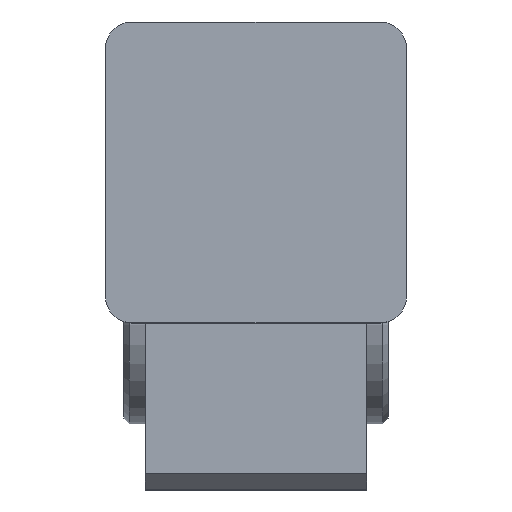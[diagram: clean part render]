
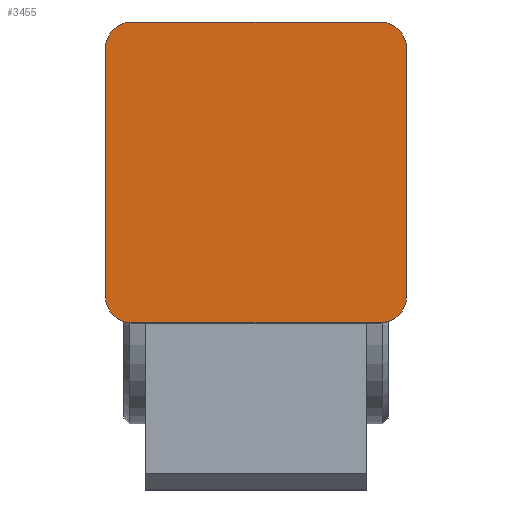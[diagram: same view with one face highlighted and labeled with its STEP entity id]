
A CAD part, top view. The second image highlights one B-rep face of the part: STEP entity #3455.
In plain terms, the highlighted planar face has unit normal (0, 0, 1).
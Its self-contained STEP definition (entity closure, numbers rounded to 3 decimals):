
#33 = VECTOR ( 'NONE', #2260, 1000. ) ;
#148 = CARTESIAN_POINT ( 'NONE',  ( -49.5, 42., 45. ) ) ;
#164 = CARTESIAN_POINT ( 'NONE',  ( 2.5, 42., 45. ) ) ;
#176 = ORIENTED_EDGE ( 'NONE', *, *, #2095, .T. ) ;
#281 = CARTESIAN_POINT ( 'NONE',  ( -44.5, -5., 45. ) ) ;
#408 = ORIENTED_EDGE ( 'NONE', *, *, #3957, .T. ) ;
#440 = CIRCLE ( 'NONE', #3686, 5. ) ;
#444 = VERTEX_POINT ( 'NONE', #2080 ) ;
#503 = EDGE_CURVE ( 'NONE', #2493, #1853, #1934, .T. ) ;
#517 = CARTESIAN_POINT ( 'NONE',  ( -49.5, -5., 45. ) ) ;
#732 = DIRECTION ( 'NONE',  ( 0., -1., 0. ) ) ;
#776 = PLANE ( 'NONE',  #2318 ) ;
#1158 = EDGE_CURVE ( 'NONE', #2332, #2493, #3135, .T. ) ;
#1236 = CARTESIAN_POINT ( 'NONE',  ( 2.5, 42., 45. ) ) ;
#1280 = ORIENTED_EDGE ( 'NONE', *, *, #2846, .T. ) ;
#1336 = CARTESIAN_POINT ( 'NONE',  ( -49.5, -5., 45. ) ) ;
#1350 = CIRCLE ( 'NONE', #5701, 5. ) ;
#1386 = CARTESIAN_POINT ( 'NONE',  ( 7.5, 42., 45. ) ) ;
#1414 = VECTOR ( 'NONE', #732, 1000. ) ;
#1618 = CARTESIAN_POINT ( 'NONE',  ( 2.5, 47., 45. ) ) ;
#1853 = VERTEX_POINT ( 'NONE', #517 ) ;
#1934 = LINE ( 'NONE', #1336, #1414 ) ;
#1959 = DIRECTION ( 'NONE',  ( -1., 0., 0. ) ) ;
#2020 = EDGE_CURVE ( 'NONE', #444, #5419, #3479, .T. ) ;
#2080 = CARTESIAN_POINT ( 'NONE',  ( 7.5, -5., 45. ) ) ;
#2095 = EDGE_CURVE ( 'NONE', #5419, #2758, #1350, .T. ) ;
#2140 = AXIS2_PLACEMENT_3D ( 'NONE', #4053, #3468, #2857 ) ;
#2241 = VECTOR ( 'NONE', #3459, 1000. ) ;
#2260 = DIRECTION ( 'NONE',  ( 0., 1., 0. ) ) ;
#2296 = LINE ( 'NONE', #5186, #4795 ) ;
#2318 = AXIS2_PLACEMENT_3D ( 'NONE', #164, #5457, #4863 ) ;
#2332 = VERTEX_POINT ( 'NONE', #4593 ) ;
#2493 = VERTEX_POINT ( 'NONE', #148 ) ;
#2511 = VERTEX_POINT ( 'NONE', #5301 ) ;
#2539 = EDGE_CURVE ( 'NONE', #2511, #444, #440, .T. ) ;
#2559 = DIRECTION ( 'NONE',  ( 0., 0., 1. ) ) ;
#2596 = ORIENTED_EDGE ( 'NONE', *, *, #1158, .T. ) ;
#2758 = VERTEX_POINT ( 'NONE', #1618 ) ;
#2846 = EDGE_CURVE ( 'NONE', #2758, #2332, #4651, .T. ) ;
#2857 = DIRECTION ( 'NONE',  ( -1., 0., 0. ) ) ;
#2868 = CARTESIAN_POINT ( 'NONE',  ( 7.5, -5., 45. ) ) ;
#2881 = AXIS2_PLACEMENT_3D ( 'NONE', #281, #2559, #1959 ) ;
#2885 = CARTESIAN_POINT ( 'NONE',  ( 2.5, -5., 45. ) ) ;
#2900 = DIRECTION ( 'NONE',  ( -1., 0., 0. ) ) ;
#2974 = ORIENTED_EDGE ( 'NONE', *, *, #2020, .T. ) ;
#3135 = CIRCLE ( 'NONE', #2140, 5. ) ;
#3356 = DIRECTION ( 'NONE',  ( 1., 0., 0. ) ) ;
#3368 = EDGE_CURVE ( 'NONE', #1853, #5734, #3646, .T. ) ;
#3455 = ADVANCED_FACE ( 'NONE', ( #5136 ), #776, .F. ) ;
#3459 = DIRECTION ( 'NONE',  ( -1., 0., 0. ) ) ;
#3468 = DIRECTION ( 'NONE',  ( 0., 0., 1. ) ) ;
#3479 = LINE ( 'NONE', #2868, #33 ) ;
#3510 = DIRECTION ( 'NONE',  ( 0., 0., 1. ) ) ;
#3646 = CIRCLE ( 'NONE', #2881, 5. ) ;
#3686 = AXIS2_PLACEMENT_3D ( 'NONE', #2885, #3948, #3356 ) ;
#3691 = ORIENTED_EDGE ( 'NONE', *, *, #3368, .T. ) ;
#3948 = DIRECTION ( 'NONE',  ( 0., 0., 1. ) ) ;
#3957 = EDGE_CURVE ( 'NONE', #5734, #2511, #2296, .T. ) ;
#4044 = CARTESIAN_POINT ( 'NONE',  ( -44.5, 47., 45. ) ) ;
#4053 = CARTESIAN_POINT ( 'NONE',  ( -44.5, 42., 45. ) ) ;
#4206 = ORIENTED_EDGE ( 'NONE', *, *, #2539, .T. ) ;
#4259 = CARTESIAN_POINT ( 'NONE',  ( -44.5, -10., 45. ) ) ;
#4566 = DIRECTION ( 'NONE',  ( 1., 0., 0. ) ) ;
#4593 = CARTESIAN_POINT ( 'NONE',  ( -44.5, 47., 45. ) ) ;
#4651 = LINE ( 'NONE', #4044, #2241 ) ;
#4795 = VECTOR ( 'NONE', #4566, 1000. ) ;
#4863 = DIRECTION ( 'NONE',  ( -1., 0., 0. ) ) ;
#5136 = FACE_OUTER_BOUND ( 'NONE', #5192, .T. ) ;
#5186 = CARTESIAN_POINT ( 'NONE',  ( -44.5, -10., 45. ) ) ;
#5192 = EDGE_LOOP ( 'NONE', ( #176, #1280, #2596, #5454, #3691, #408, #4206, #2974 ) ) ;
#5301 = CARTESIAN_POINT ( 'NONE',  ( 2.5, -10., 45. ) ) ;
#5419 = VERTEX_POINT ( 'NONE', #1386 ) ;
#5454 = ORIENTED_EDGE ( 'NONE', *, *, #503, .T. ) ;
#5457 = DIRECTION ( 'NONE',  ( 0., 0., -1. ) ) ;
#5701 = AXIS2_PLACEMENT_3D ( 'NONE', #1236, #3510, #2900 ) ;
#5734 = VERTEX_POINT ( 'NONE', #4259 ) ;
